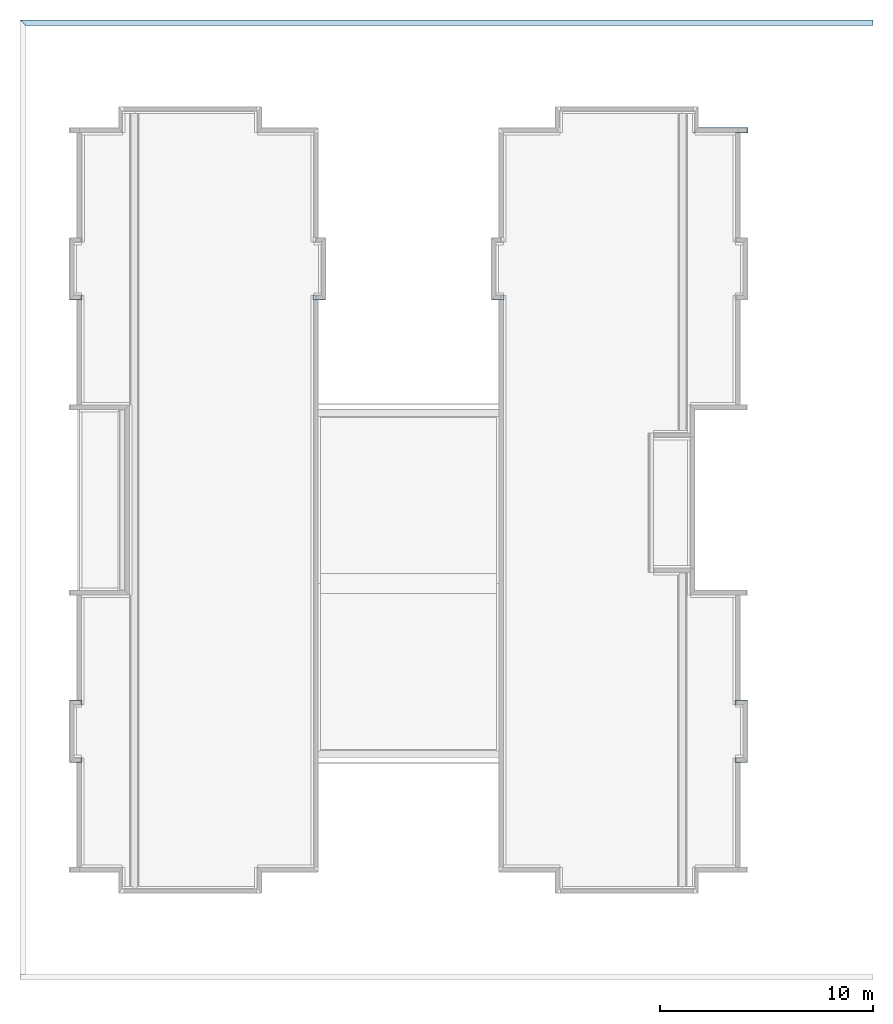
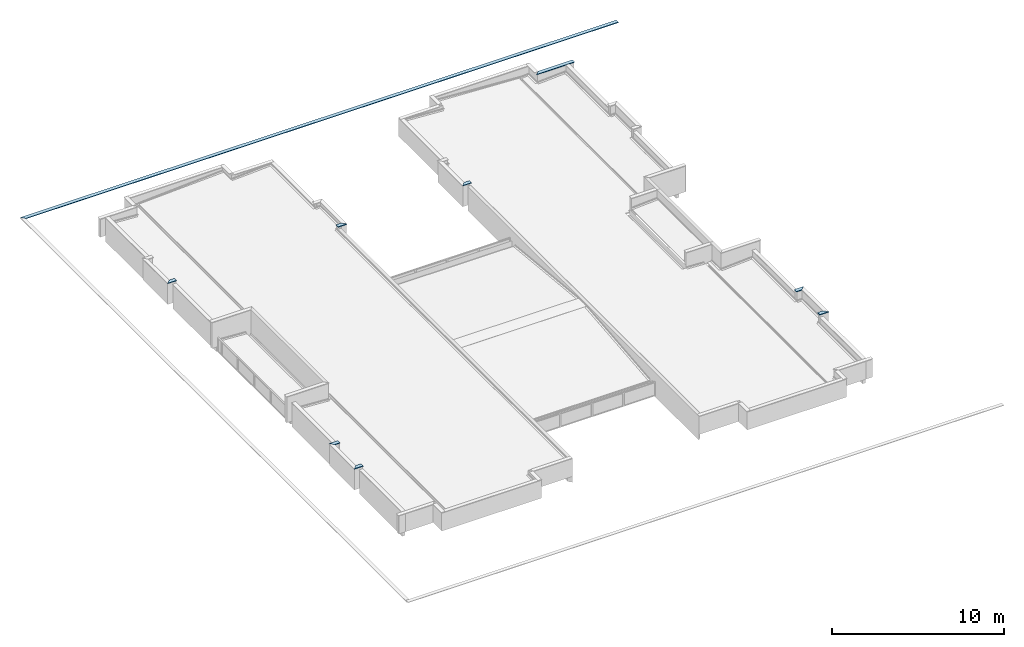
# One storey, part 22 of 25: 9 roofs.
"""IFC4 building model written with IfcOpenShell, lengths in metres."""

from ifc_helpers import new_model, entity, si_unit, converted_unit, derived_unit, direction, frame, origin_with_axes, place, context, subcontext, project, spatial, polygons, material, constituent, constituent_set, type_object, element, save


model = new_model("IFC4")

# Units and contexts
model_context = context("Model", 3, precision=1e-05, world=origin_with_axes(), true_north=direction((0.0, 1.0)))
body_context = subcontext(model_context, "Body", "Model", "MODEL_VIEW")
ifc_project = project(units=[si_unit("LENGTHUNIT", "METRE"), si_unit("AREAUNIT", "SQUARE_METRE"), si_unit("VOLUMEUNIT", "CUBIC_METRE"), converted_unit("PLANEANGLEUNIT", "DEGREE", entity("IfcPlaneAngleMeasure", 0.0174532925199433), si_unit("PLANEANGLEUNIT", "RADIAN"), dimensions=[0, 0, 0, 0, 0, 0, 0]), converted_unit("TIMEUNIT", "Year", entity("IfcTimeMeasure", 31557600.0), si_unit("TIMEUNIT", "SECOND"), dimensions=[0, 0, 1, 0, 0, 0, 0]), si_unit("MASSUNIT", "GRAM", prefix="KILO"), si_unit("THERMODYNAMICTEMPERATUREUNIT", "DEGREE_CELSIUS"), si_unit("LUMINOUSINTENSITYUNIT", "LUMEN"), si_unit("ENERGYUNIT", "JOULE", prefix="MEGA"), derived_unit("THERMALCONDUCTANCEUNIT", [(si_unit("POWERUNIT", "WATT"), 1), (si_unit("LENGTHUNIT", "METRE"), -1), (si_unit("THERMODYNAMICTEMPERATUREUNIT", "KELVIN"), -1)]), derived_unit("SPECIFICHEATCAPACITYUNIT", [(si_unit("ENERGYUNIT", "JOULE"), 1), (si_unit("MASSUNIT", "GRAM", prefix="KILO"), -1), (si_unit("THERMODYNAMICTEMPERATUREUNIT", "KELVIN"), -1)]), derived_unit("MASSDENSITYUNIT", [(si_unit("MASSUNIT", "GRAM", prefix="KILO"), 1), (si_unit("VOLUMEUNIT", "CUBIC_METRE"), -1)])], contexts=[model_context])

# Site, building, storey
site_placement = place(None, origin_with_axes())
site = spatial("IfcSite", under=ifc_project, at=site_placement, Name="PADRÃO", CompositionType="ELEMENT")
building_placement = place(site_placement, origin_with_axes())
building = spatial("IfcBuilding", under=site, at=building_placement, Name="CRECHE PRÉ-ESCOLA TIPO 2", CompositionType="ELEMENT")
storey_placement = place(building_placement, frame((0.0, 0.0, 3.26), z_axis=(0.0, 0.0, 1.0), x_axis=(1.0, 0.0, 0.0)))
storey = spatial("IfcBuildingStorey", under=building, at=storey_placement, Name="COBERTURA", CompositionType="ELEMENT", Elevation=3.26)

# Roofs
ifc_material = material(Name="PINGADEIRA EM CHAPA DE AÇO GALVANIZADO")
ifc_constituent_1 = constituent(ifc_material, Name="PINGADEIRA EM CHAPA DE AÇO GALVANIZADO 1")
ifc_constituent_2 = constituent(ifc_material, Name="PINGADEIRA EM CHAPA DE AÇO GALVANIZADO 2")
ifc_constituent_set_1 = constituent_set(constituents=[ifc_constituent_1, ifc_constituent_2])
roof_type_1 = type_object("IfcRoofType", Name="Várias Estruturas- 2 Segmentos - 250 x 40 x 2560 (1+2559)", PredefinedType="NOTDEFINED")
roof_1_placement = place(storey_placement, frame((-5.86556439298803, 39.9501559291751, 1.31), z_axis=(0.0, 0.0, 1.0), x_axis=(0.0, 1.0, 0.0)))
element("IfcRoof", 1, at=roof_1_placement, inside=storey, type_object=roof_type_1, material=ifc_constituent_set_1, Name="V01", PredefinedType="NOTDEFINED", context=body_context, shape_type="Tessellation", body=[
    polygons([(0.0250000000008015, 0.0, 0.00999999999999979), (0.0250000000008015, 0.000999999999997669, 0.00999999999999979), (-0.225037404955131, 0.000999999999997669, 0.00999999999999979), (-0.225037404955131, 0.0, 0.00999999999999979), (0.0250000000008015, 0.0, -0.0300000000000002), (0.0250000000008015, 0.000999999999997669, -0.0300000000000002), (-0.225037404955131, 0.000999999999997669, -0.0300000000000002), (-0.225037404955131, 0.0, -0.0300000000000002)], [[[1, 2, 3, 4]], [[5, 6, 2, 1]], [[3, 2, 6, 7]], [[4, 3, 7, 8]], [[5, 1, 4, 8]], [[8, 7, 6, 5]]], closed=True),
    polygons([(-0.204999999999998, 0.000999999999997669, -0.0184313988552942), (-0.225037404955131, 0.000999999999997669, -0.0300000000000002), (-0.225037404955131, 0.404451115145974, -0.0300000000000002), (-0.204999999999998, 0.40445132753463, -0.0184313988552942), (-0.205500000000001, 0.000999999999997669, -0.01756537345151), (-0.224036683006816, 0.000999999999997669, -0.0282675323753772), (-0.224021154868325, 0.000999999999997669, 0.00900000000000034), (0.0240000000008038, 0.000999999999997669, 0.00900000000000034), (0.0240000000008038, 0.000999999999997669, -0.0282679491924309), (0.00546259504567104, 0.000999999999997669, -0.01756537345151), (0.00496259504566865, 0.000999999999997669, -0.0184313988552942), (0.0250000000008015, 0.000999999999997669, -0.0300000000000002), (0.0250000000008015, 0.000999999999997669, 0.00999999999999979), (-0.225020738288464, 0.000999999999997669, 0.00999999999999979), (-0.225029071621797, 0.544451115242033, -0.00999999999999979), (-0.225024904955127, 0.544451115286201, 0.0), (-0.225024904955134, 0.404451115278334, 0.0), (-0.225020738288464, 2.560020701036, 0.00999999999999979), (-0.225037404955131, 2.56003736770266, -0.0300000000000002), (-0.225037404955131, 0.559423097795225, -0.0300000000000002), (-0.225029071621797, 0.559423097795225, -0.00999999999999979), (-0.224024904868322, 0.404451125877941, 0.0), (-0.224036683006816, 0.404451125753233, -0.0282675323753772), (-0.205500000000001, 0.404451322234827, -0.01756537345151), (-0.224024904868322, 0.544451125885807, 0.0), (-0.224029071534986, 0.544451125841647, -0.00999999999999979), (-0.224029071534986, 0.559423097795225, -0.00999999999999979), (-0.224036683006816, 0.559423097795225, -0.0282675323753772), (-0.224036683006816, 2.55903664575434, -0.0282675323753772), (-0.224021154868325, 2.55902111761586, 0.00900000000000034), (0.0240000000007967, 2.31099996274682, 0.00900000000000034), (0.0240000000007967, 2.31099996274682, -0.0282679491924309), (0.00546259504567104, 2.32953736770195, -0.01756537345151), (0.00496259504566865, 2.33003736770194, -0.0184313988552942), (0.0250000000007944, 2.30999996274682, -0.0300000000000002), (0.0250000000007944, 2.30999996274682, 0.00999999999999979), (-0.205500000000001, 2.54049996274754, -0.01756537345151), (-0.204999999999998, 2.53999996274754, -0.0184313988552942), (-0.204999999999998, 0.559423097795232, -0.0184313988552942), (-0.205500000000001, 0.559423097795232, -0.01756537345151)], [[[1, 2, 3, 4]], [[1, 5, 6, 7, 8, 9, 10, 11, 12, 13, 14, 2]], [[15, 16, 17, 3, 2, 14, 18, 19, 20, 21]], [[22, 23, 24, 4, 3, 17]], [[5, 1, 4, 24]], [[6, 5, 24, 23]], [[23, 22, 25, 26, 27, 28, 29, 30, 7, 6]], [[31, 8, 7, 30]], [[32, 9, 8, 31]], [[33, 10, 9, 32]], [[34, 11, 10, 33]], [[35, 12, 11, 34]], [[36, 13, 12, 35]], [[18, 14, 13, 36]], [[16, 15, 26, 25]], [[17, 16, 25, 22]], [[29, 37, 38, 19, 18, 36, 35, 34, 33, 32, 31, 30]], [[39, 20, 19, 38]], [[40, 28, 27, 21, 20, 39]], [[21, 27, 26, 15]], [[28, 40, 37, 29]], [[40, 39, 38, 37]]], closed=True),
])
ifc_constituent_3 = constituent(ifc_material, Name="PINGADEIRA EM CHAPA DE AÇO GALVANIZADO 1")
ifc_constituent_4 = constituent(ifc_material, Name="PINGADEIRA EM CHAPA DE AÇO GALVANIZADO 2")
ifc_constituent_set_2 = constituent_set(constituents=[ifc_constituent_3, ifc_constituent_4])
roof_type_2 = type_object("IfcRoofType", Name="Várias Estruturas- 2 Segmentos - 250 x 40 x 609 (1+608)", PredefinedType="NOTDEFINED")
roof_2_placement = place(storey_placement, frame((-6.47456699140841, 10.2001564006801, 1.51), z_axis=(0.0, 0.0, 1.0), x_axis=(4.85308304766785e-05, -0.999999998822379, 0.0)))
element("IfcRoof", 2, at=roof_2_placement, inside=storey, type_object=roof_type_2, material=ifc_constituent_set_2, Name="V01", PredefinedType="NOTDEFINED", context=body_context, shape_type="Tessellation", body=[
    polygons([(0.0250000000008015, 0.0, 0.00999999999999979), (0.0250000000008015, 0.00100000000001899, 0.00999999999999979), (-0.225037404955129, 0.00100000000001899, 0.00999999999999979), (-0.225037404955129, 0.0, 0.00999999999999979), (0.0250000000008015, 0.0, -0.0300000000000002), (0.0250000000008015, 0.00100000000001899, -0.0300000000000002), (-0.225037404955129, 0.00100000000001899, -0.0300000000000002), (-0.225037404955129, 0.0, -0.0300000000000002)], [[[1, 2, 3, 4]], [[5, 6, 2, 1]], [[3, 2, 6, 7]], [[4, 3, 7, 8]], [[5, 1, 4, 8]], [[8, 7, 6, 5]]], closed=True),
    polygons([(0.00496259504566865, 0.000999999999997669, -0.0184313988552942), (0.00496259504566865, 0.589101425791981, -0.0184313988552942), (0.0250000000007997, 0.609138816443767, -0.0300000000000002), (0.0250000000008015, 0.00100000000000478, -0.0300000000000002), (0.00546259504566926, 0.00100000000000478, -0.01756537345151), (0.00546259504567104, 0.589601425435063, -0.01756537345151), (-0.205000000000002, 0.379138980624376, -0.0184313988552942), (-0.225037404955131, 0.359101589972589, -0.0300000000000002), (-0.225020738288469, 0.359118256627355, 0.00999999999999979), (0.0250000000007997, 0.609138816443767, 0.00999999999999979), (0.0240000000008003, 0.608138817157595, -0.0282679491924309), (0.0240000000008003, 0.608138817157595, 0.00900000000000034), (-0.224021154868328, 0.360117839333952, 0.00900000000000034), (-0.224036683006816, 0.360102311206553, -0.0282675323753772), (-0.205500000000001, 0.378638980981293, -0.01756537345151), (0.0250000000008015, 0.00100000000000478, 0.00999999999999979), (-0.224036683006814, 0.00100000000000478, -0.0282675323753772), (-0.224021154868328, 0.00100000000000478, 0.00900000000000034), (0.0240000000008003, 0.00100000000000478, 0.00900000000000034), (0.0240000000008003, 0.00100000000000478, -0.0282679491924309), (-0.225020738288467, 0.00100000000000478, 0.00999999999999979), (-0.225037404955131, 0.00100000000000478, -0.0300000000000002), (-0.205000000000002, 0.00100000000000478, -0.0184313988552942), (-0.205499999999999, 0.00100000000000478, -0.01756537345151)], [[[1, 2, 3, 4]], [[5, 6, 2, 1]], [[7, 8, 9, 10, 3, 2, 6, 11, 12, 13, 14, 15]], [[4, 3, 10, 16]], [[17, 18, 19, 20, 5, 1, 4, 16, 21, 22, 23, 24]], [[20, 11, 6, 5]], [[22, 8, 7, 23]], [[21, 9, 8, 22]], [[16, 10, 9, 21]], [[19, 12, 11, 20]], [[18, 13, 12, 19]], [[17, 14, 13, 18]], [[24, 15, 14, 17]], [[23, 7, 15, 24]]], closed=True),
])
ifc_constituent_5 = constituent(ifc_material, Name="PINGADEIRA EM CHAPA DE AÇO GALVANIZADO 1")
ifc_constituent_6 = constituent(ifc_material, Name="PINGADEIRA EM CHAPA DE AÇO GALVANIZADO 2")
ifc_constituent_set_3 = constituent_set(constituents=[ifc_constituent_5, ifc_constituent_6])
roof_3_placement = place(storey_placement, frame((-37.106068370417, 13.1000019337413, 1.51), z_axis=(0.0, 0.0, 1.0), x_axis=(0.0, 1.0, 0.0)))
element("IfcRoof", 3, at=roof_3_placement, inside=storey, type_object=roof_type_2, material=ifc_constituent_set_3, Name="V01", PredefinedType="NOTDEFINED", context=body_context, shape_type="Tessellation", body=[
    polygons([(0.0250000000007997, 0.0, 0.00999999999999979), (0.0250000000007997, 0.00099999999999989, 0.00999999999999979), (-0.225037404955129, 0.00099999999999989, 0.00999999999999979), (-0.225037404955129, 0.0, 0.00999999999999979), (0.0250000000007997, 0.0, -0.0300000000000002), (0.0250000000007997, 0.00099999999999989, -0.0300000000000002), (-0.225037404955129, 0.00099999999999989, -0.0300000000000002), (-0.225037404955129, 0.0, -0.0300000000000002)], [[[1, 2, 3, 4]], [[5, 6, 2, 1]], [[3, 2, 6, 7]], [[4, 3, 7, 8]], [[5, 1, 4, 8]], [[8, 7, 6, 5]]], closed=True),
    polygons([(0.00496259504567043, 0.00099999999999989, -0.0184313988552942), (0.00496259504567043, 0.588965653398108, -0.0184313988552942), (0.0250000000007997, 0.609003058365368, -0.0300000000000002), (0.0250000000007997, 0.00099999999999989, -0.0300000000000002), (0.00546259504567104, 0.00099999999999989, -0.01756537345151), (0.00546259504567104, 0.589465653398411, -0.01756537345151), (-0.205, 0.379003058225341, -0.0184313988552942), (-0.225037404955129, 0.358965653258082, -0.0300000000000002), (-0.225020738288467, 0.358982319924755, 0.00999999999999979), (0.0250000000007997, 0.609003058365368, 0.00999999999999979), (0.0240000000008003, 0.608003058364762, -0.0282679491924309), (0.0240000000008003, 0.608003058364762, 0.00900000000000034), (-0.224021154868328, 0.359981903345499, 0.00900000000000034), (-0.224036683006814, 0.359966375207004, -0.0282675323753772), (-0.205500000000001, 0.378503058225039, -0.01756537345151), (0.0250000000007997, 0.00099999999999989, 0.00999999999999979), (-0.224036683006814, 0.00099999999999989, -0.0282675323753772), (-0.224021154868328, 0.00099999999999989, 0.00900000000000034), (0.0240000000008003, 0.00099999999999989, 0.00900000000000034), (0.0240000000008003, 0.00099999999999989, -0.0282679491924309), (-0.225020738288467, 0.00099999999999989, 0.00999999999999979), (-0.225037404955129, 0.00099999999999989, -0.0300000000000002), (-0.205, 0.00099999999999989, -0.0184313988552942), (-0.205500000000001, 0.00099999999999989, -0.01756537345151)], [[[1, 2, 3, 4]], [[5, 6, 2, 1]], [[7, 8, 9, 10, 3, 2, 6, 11, 12, 13, 14, 15]], [[4, 3, 10, 16]], [[17, 18, 19, 20, 5, 1, 4, 16, 21, 22, 23, 24]], [[20, 11, 6, 5]], [[22, 8, 7, 23]], [[21, 9, 8, 22]], [[16, 10, 9, 21]], [[19, 12, 11, 20]], [[18, 13, 12, 19]], [[17, 14, 13, 18]], [[24, 15, 14, 17]], [[23, 7, 15, 24]]], closed=True),
])
ifc_constituent_7 = constituent(ifc_material, Name="PINGADEIRA EM CHAPA DE AÇO GALVANIZADO 1")
ifc_constituent_8 = constituent(ifc_material, Name="PINGADEIRA EM CHAPA DE AÇO GALVANIZADO 2")
ifc_constituent_set_4 = constituent_set(constituents=[ifc_constituent_7, ifc_constituent_8])
roof_type_3 = type_object("IfcRoofType", Name="Várias Estruturas- 2 Segmentos - 250 x 40 x 609 (608+1)", PredefinedType="NOTDEFINED")
roof_4_placement = place(storey_placement, frame((-5.89056682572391, 13.1001559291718, 1.51), z_axis=(0.0, 0.0, 1.0), x_axis=(0.0, 1.0, 0.0)))
element("IfcRoof", 4, at=roof_4_placement, inside=storey, type_object=roof_type_3, material=ifc_constituent_set_4, Name="V01", PredefinedType="NOTDEFINED", context=body_context, shape_type="Tessellation", body=[
    polygons([(0.00496259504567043, -0.00496235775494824, -0.0184313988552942), (0.00496259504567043, 0.582999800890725, -0.0184313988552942), (0.0250000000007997, 0.582999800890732, -0.0300000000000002), (0.0250000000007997, -0.0249988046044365, -0.0300000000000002), (0.00546259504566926, -0.00546233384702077, -0.01756537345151), (0.00546259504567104, 0.582999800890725, -0.01756537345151), (-0.205, 0.582999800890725, -0.0184313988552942), (-0.225037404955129, 0.582999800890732, -0.0300000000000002), (-0.225020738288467, 0.582999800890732, 0.00999999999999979), (0.0250000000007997, 0.582999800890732, 0.00999999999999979), (0.0240000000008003, 0.582999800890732, -0.0282679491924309), (0.0240000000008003, 0.582999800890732, 0.00900000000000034), (-0.224021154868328, 0.582999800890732, 0.00900000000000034), (-0.224036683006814, 0.582999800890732, -0.0282675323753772), (-0.205500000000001, 0.582999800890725, -0.01756537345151), (0.0250000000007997, -0.0249988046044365, 0.00999999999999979), (-0.224036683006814, 0.224025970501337, -0.0282675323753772), (-0.224021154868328, 0.224010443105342, 0.00900000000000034), (0.0240000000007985, -0.0239988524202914, 0.00900000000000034), (0.0240000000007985, -0.0239988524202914, -0.0282679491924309), (-0.225020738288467, 0.225009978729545, 0.00999999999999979), (-0.225037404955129, 0.225026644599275, -0.0300000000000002), (-0.205, 0.204990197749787, -0.0184313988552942), (-0.205500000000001, 0.205490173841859, -0.01756537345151)], [[[1, 2, 3, 4]], [[5, 6, 2, 1]], [[7, 8, 9, 10, 3, 2, 6, 11, 12, 13, 14, 15]], [[4, 3, 10, 16]], [[17, 18, 19, 20, 5, 1, 4, 16, 21, 22, 23, 24]], [[20, 11, 6, 5]], [[22, 8, 7, 23]], [[21, 9, 8, 22]], [[16, 10, 9, 21]], [[19, 12, 11, 20]], [[18, 13, 12, 19]], [[17, 14, 13, 18]], [[24, 15, 14, 17]], [[23, 7, 15, 24]]], closed=True),
    polygons([(0.0250000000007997, 0.582999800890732, 0.00999999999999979), (0.0250000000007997, 0.58399980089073, 0.00999999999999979), (-0.225037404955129, 0.58399980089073, 0.00999999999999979), (-0.225037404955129, 0.582999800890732, 0.00999999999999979), (0.0250000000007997, 0.582999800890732, -0.0300000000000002), (0.0250000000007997, 0.58399980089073, -0.0300000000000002), (-0.225037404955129, 0.58399980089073, -0.0300000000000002), (-0.225037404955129, 0.582999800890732, -0.0300000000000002)], [[[1, 2, 3, 4]], [[5, 6, 2, 1]], [[3, 2, 6, 7]], [[4, 3, 7, 8]], [[5, 1, 4, 8]], [[8, 7, 6, 5]]], closed=True),
])
ifc_constituent_9 = constituent(ifc_material, Name="PINGADEIRA EM CHAPA DE AÇO GALVANIZADO 1")
ifc_constituent_10 = constituent(ifc_material, Name="PINGADEIRA EM CHAPA DE AÇO GALVANIZADO 2")
ifc_constituent_set_5 = constituent_set(constituents=[ifc_constituent_9, ifc_constituent_10])
roof_5_placement = place(storey_placement, frame((-37.690071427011, 10.2000019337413, 1.51), z_axis=(0.0, 0.0, 1.0), x_axis=(0.0, -1.0, 0.0)))
element("IfcRoof", 5, at=roof_5_placement, inside=storey, type_object=roof_type_3, material=ifc_constituent_set_5, Name="V01", PredefinedType="NOTDEFINED", context=body_context, shape_type="Tessellation", body=[
    polygons([(0.00496259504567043, -0.00496259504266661, -0.0184313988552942), (0.00496259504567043, 0.582970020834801, -0.0184313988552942), (0.0250000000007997, 0.582970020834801, -0.0300000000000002), (0.0250000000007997, -0.0249999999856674, -0.0300000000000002), (0.00546259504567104, -0.0054625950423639, -0.01756537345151), (0.00546259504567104, 0.582970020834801, -0.01756537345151), (-0.205, 0.582970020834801, -0.0184313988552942), (-0.225037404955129, 0.582970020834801, -0.0300000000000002), (-0.225020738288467, 0.582970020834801, 0.00999999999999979), (0.0250000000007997, 0.582970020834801, 0.00999999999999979), (0.0240000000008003, 0.582970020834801, -0.0282679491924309), (0.0240000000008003, 0.582970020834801, 0.00900000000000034), (-0.224021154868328, 0.582970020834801, 0.00900000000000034), (-0.224036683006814, 0.582970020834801, -0.0282675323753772), (-0.205500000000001, 0.582970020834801, -0.01756537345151), (0.0250000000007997, -0.0249999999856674, 0.00999999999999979), (-0.224036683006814, 0.2240366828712, -0.0282675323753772), (-0.224021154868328, 0.224021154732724, 0.00900000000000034), (0.0240000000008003, -0.0239999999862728, 0.00900000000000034), (0.0240000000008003, -0.0239999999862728, -0.0282679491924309), (-0.225020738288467, 0.225020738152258, 0.00999999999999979), (-0.225037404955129, 0.225037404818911, -0.0300000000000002), (-0.205, 0.20499999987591, -0.0184313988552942), (-0.205500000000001, 0.205499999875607, -0.01756537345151)], [[[1, 2, 3, 4]], [[5, 6, 2, 1]], [[7, 8, 9, 10, 3, 2, 6, 11, 12, 13, 14, 15]], [[4, 3, 10, 16]], [[17, 18, 19, 20, 5, 1, 4, 16, 21, 22, 23, 24]], [[20, 11, 6, 5]], [[22, 8, 7, 23]], [[21, 9, 8, 22]], [[16, 10, 9, 21]], [[19, 12, 11, 20]], [[18, 13, 12, 19]], [[17, 14, 13, 18]], [[24, 15, 14, 17]], [[23, 7, 15, 24]]], closed=True),
    polygons([(0.0250000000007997, 0.582970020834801, 0.00999999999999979), (0.0250000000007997, 0.5839700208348, 0.00999999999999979), (-0.225037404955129, 0.5839700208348, 0.00999999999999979), (-0.225037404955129, 0.582970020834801, 0.00999999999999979), (0.0250000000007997, 0.582970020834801, -0.0300000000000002), (0.0250000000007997, 0.5839700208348, -0.0300000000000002), (-0.225037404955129, 0.5839700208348, -0.0300000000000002), (-0.225037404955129, 0.582970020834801, -0.0300000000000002)], [[[1, 2, 3, 4]], [[5, 6, 2, 1]], [[3, 2, 6, 7]], [[4, 3, 7, 8]], [[5, 1, 4, 8]], [[8, 7, 6, 5]]], closed=True),
])
ifc_constituent_11 = constituent(ifc_material, Name="PINGADEIRA EM CHAPA DE AÇO GALVANIZADO 1")
ifc_constituent_12 = constituent(ifc_material, Name="PINGADEIRA EM CHAPA DE AÇO GALVANIZADO 2")
ifc_constituent_set_6 = constituent_set(constituents=[ifc_constituent_11, ifc_constituent_12])
roof_6_placement = place(storey_placement, frame((-37.6900714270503, 31.9000019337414, 1.51), z_axis=(0.0, 0.0, 1.0), x_axis=(0.0, -1.0, 0.0)))
element("IfcRoof", 6, at=roof_6_placement, inside=storey, type_object=roof_type_3, material=ifc_constituent_set_6, Name="V01", PredefinedType="NOTDEFINED", context=body_context, shape_type="Tessellation", body=[
    polygons([(0.0049625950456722, -0.00496259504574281, -0.0184313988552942), (0.0049625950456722, 0.582970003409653, -0.0184313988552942), (0.0250000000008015, 0.582970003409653, -0.0300000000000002), (0.0250000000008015, -0.0250000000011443, -0.0300000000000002), (0.00546259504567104, -0.00546259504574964, -0.01756537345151), (0.00546259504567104, 0.582970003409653, -0.01756537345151), (-0.204999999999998, 0.582970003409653, -0.0184313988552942), (-0.225037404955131, 0.582970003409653, -0.0300000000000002), (-0.225020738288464, 0.582970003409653, 0.00999999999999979), (0.0250000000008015, 0.582970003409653, 0.00999999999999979), (0.0240000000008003, 0.582970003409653, -0.0282679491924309), (0.0240000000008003, 0.582970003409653, 0.00900000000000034), (-0.224021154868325, 0.582970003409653, 0.00900000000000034), (-0.224036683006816, 0.582970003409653, -0.0282675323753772), (-0.205500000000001, 0.582970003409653, -0.01756537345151), (0.0250000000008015, -0.0250000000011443, 0.00999999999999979), (-0.224036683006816, 0.224036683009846, -0.0282675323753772), (-0.224021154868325, 0.22402115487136, 0.00900000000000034), (0.0240000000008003, -0.0240000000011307, 0.00900000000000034), (0.0240000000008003, -0.0240000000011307, -0.0282679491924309), (-0.225020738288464, 0.225020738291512, 0.00999999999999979), (-0.225037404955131, 0.225037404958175, -0.0300000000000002), (-0.204999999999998, 0.205000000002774, -0.0184313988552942), (-0.205500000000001, 0.205500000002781, -0.01756537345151)], [[[1, 2, 3, 4]], [[5, 6, 2, 1]], [[7, 8, 9, 10, 3, 2, 6, 11, 12, 13, 14, 15]], [[4, 3, 10, 16]], [[17, 18, 19, 20, 5, 1, 4, 16, 21, 22, 23, 24]], [[20, 11, 6, 5]], [[22, 8, 7, 23]], [[21, 9, 8, 22]], [[16, 10, 9, 21]], [[19, 12, 11, 20]], [[18, 13, 12, 19]], [[17, 14, 13, 18]], [[24, 15, 14, 17]], [[23, 7, 15, 24]]], closed=True),
    polygons([(0.0250000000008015, 0.582970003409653, 0.00999999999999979), (0.0250000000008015, 0.583970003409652, 0.00999999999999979), (-0.225037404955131, 0.583970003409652, 0.00999999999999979), (-0.225037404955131, 0.582970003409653, 0.00999999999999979), (0.0250000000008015, 0.582970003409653, -0.0300000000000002), (0.0250000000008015, 0.583970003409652, -0.0300000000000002), (-0.225037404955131, 0.583970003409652, -0.0300000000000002), (-0.225037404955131, 0.582970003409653, -0.0300000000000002)], [[[1, 2, 3, 4]], [[5, 6, 2, 1]], [[3, 2, 6, 7]], [[4, 3, 7, 8]], [[5, 1, 4, 8]], [[8, 7, 6, 5]]], closed=True),
])
ifc_constituent_13 = constituent(ifc_material, Name="PINGADEIRA EM CHAPA DE AÇO GALVANIZADO 1")
ifc_constituent_14 = constituent(ifc_material, Name="PINGADEIRA EM CHAPA DE AÇO GALVANIZADO 2")
ifc_constituent_set_7 = constituent_set(constituents=[ifc_constituent_13, ifc_constituent_14])
roof_7_placement = place(storey_placement, frame((-17.890012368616, 31.9000019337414, 1.51), z_axis=(0.0, 0.0, 1.0), x_axis=(0.0, -1.0, 0.0)))
element("IfcRoof", 7, at=roof_7_placement, inside=storey, type_object=roof_type_3, material=ifc_constituent_set_7, Name="V01", PredefinedType="NOTDEFINED", context=body_context, shape_type="Tessellation", body=[
    polygons([(0.0049625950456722, -0.00496259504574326, -0.0184313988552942), (0.0049625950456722, 0.582970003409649, -0.0184313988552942), (0.0250000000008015, 0.582970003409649, -0.0300000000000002), (0.0250000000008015, -0.0250000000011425, -0.0300000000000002), (0.00546259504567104, -0.0054625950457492, -0.01756537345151), (0.00546259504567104, 0.582970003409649, -0.01756537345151), (-0.204999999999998, 0.582970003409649, -0.0184313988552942), (-0.225037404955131, 0.582970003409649, -0.0300000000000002), (-0.225020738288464, 0.582970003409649, 0.00999999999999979), (0.0250000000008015, 0.582970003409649, 0.00999999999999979), (0.0240000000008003, 0.582970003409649, -0.0282679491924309), (0.0240000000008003, 0.582970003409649, 0.00900000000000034), (-0.224021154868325, 0.582970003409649, 0.00900000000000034), (-0.224036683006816, 0.582970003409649, -0.0282675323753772), (-0.205500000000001, 0.582970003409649, -0.01756537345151), (0.0250000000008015, -0.0250000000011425, 0.00999999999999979), (-0.224036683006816, 0.224036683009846, -0.0282675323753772), (-0.224021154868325, 0.224021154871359, 0.00900000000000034), (0.0240000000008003, -0.0240000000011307, 0.00900000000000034), (0.0240000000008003, -0.0240000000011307, -0.0282679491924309), (-0.225020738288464, 0.225020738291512, 0.00999999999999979), (-0.225037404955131, 0.225037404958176, -0.0300000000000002), (-0.204999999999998, 0.205000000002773, -0.0184313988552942), (-0.205500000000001, 0.205500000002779, -0.01756537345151)], [[[1, 2, 3, 4]], [[5, 6, 2, 1]], [[7, 8, 9, 10, 3, 2, 6, 11, 12, 13, 14, 15]], [[4, 3, 10, 16]], [[17, 18, 19, 20, 5, 1, 4, 16, 21, 22, 23, 24]], [[20, 11, 6, 5]], [[22, 8, 7, 23]], [[21, 9, 8, 22]], [[16, 10, 9, 21]], [[19, 12, 11, 20]], [[18, 13, 12, 19]], [[17, 14, 13, 18]], [[24, 15, 14, 17]], [[23, 7, 15, 24]]], closed=True),
    polygons([(0.0250000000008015, 0.582970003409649, 0.00999999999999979), (0.0250000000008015, 0.58397000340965, 0.00999999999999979), (-0.225037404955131, 0.58397000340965, 0.00999999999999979), (-0.225037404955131, 0.582970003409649, 0.00999999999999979), (0.0250000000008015, 0.582970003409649, -0.0300000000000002), (0.0250000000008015, 0.58397000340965, -0.0300000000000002), (-0.225037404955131, 0.58397000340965, -0.0300000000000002), (-0.225037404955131, 0.582970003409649, -0.0300000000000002)], [[[1, 2, 3, 4]], [[5, 6, 2, 1]], [[3, 2, 6, 7]], [[4, 3, 7, 8]], [[5, 1, 4, 8]], [[8, 7, 6, 5]]], closed=True),
])
ifc_constituent_15 = constituent(ifc_material, Name="PINGADEIRA EM CHAPA DE AÇO GALVANIZADO 1")
ifc_constituent_16 = constituent(ifc_material, Name="PINGADEIRA EM CHAPA DE AÇO GALVANIZADO 2")
ifc_constituent_set_8 = constituent_set(constituents=[ifc_constituent_15, ifc_constituent_16])
roof_8_placement = place(storey_placement, frame((-25.6895277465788, 31.9000019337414, 1.51), z_axis=(0.0, 0.0, 1.0), x_axis=(0.0, 1.0, 0.0)))
element("IfcRoof", 8, at=roof_8_placement, inside=storey, type_object=roof_type_3, material=ifc_constituent_set_8, Name="V01", PredefinedType="NOTDEFINED", context=body_context, shape_type="Tessellation", body=[
    polygons([(-0.00546259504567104, -0.00546259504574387, -0.01756537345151), (-0.00546259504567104, 0.582970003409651, -0.01756537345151), (-0.0240000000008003, 0.582970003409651, -0.0282679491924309), (-0.0240000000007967, -0.0240000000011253, -0.0282679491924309), (-0.00496259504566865, -0.00496259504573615, -0.0184313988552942), (-0.00496259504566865, 0.582970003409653, -0.0184313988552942), (0.205500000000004, 0.582970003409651, -0.01756537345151), (0.224036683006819, 0.582970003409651, -0.0282675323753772), (0.224021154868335, 0.582970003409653, 0.00900000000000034), (-0.0240000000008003, 0.582970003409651, 0.00900000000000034), (-0.0250000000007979, 0.582970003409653, -0.0300000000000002), (-0.0250000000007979, 0.582970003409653, 0.00999999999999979), (0.225020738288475, 0.582970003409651, 0.00999999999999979), (0.225037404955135, 0.582970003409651, -0.0300000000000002), (0.205000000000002, 0.582970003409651, -0.0184313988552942), (-0.0240000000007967, -0.0240000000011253, 0.00900000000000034), (0.225037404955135, 0.225037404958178, -0.0300000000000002), (0.225020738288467, 0.225020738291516, 0.00999999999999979), (-0.0250000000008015, -0.0250000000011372, 0.00999999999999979), (-0.0250000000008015, -0.0250000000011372, -0.0300000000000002), (0.224021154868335, 0.224021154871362, 0.00900000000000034), (0.224036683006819, 0.224036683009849, -0.0282675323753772), (0.205499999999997, 0.205500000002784, -0.01756537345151), (0.205000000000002, 0.205000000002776, -0.0184313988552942)], [[[1, 2, 3, 4]], [[5, 6, 2, 1]], [[7, 8, 9, 10, 3, 2, 6, 11, 12, 13, 14, 15]], [[4, 3, 10, 16]], [[17, 18, 19, 20, 5, 1, 4, 16, 21, 22, 23, 24]], [[20, 11, 6, 5]], [[22, 8, 7, 23]], [[21, 9, 8, 22]], [[16, 10, 9, 21]], [[19, 12, 11, 20]], [[18, 13, 12, 19]], [[17, 14, 13, 18]], [[24, 15, 14, 17]], [[23, 7, 15, 24]]], closed=True),
    polygons([(-0.0250000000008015, 0.582970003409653, -0.0300000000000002), (-0.0250000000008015, 0.583970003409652, -0.0300000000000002), (0.225037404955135, 0.58397000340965, -0.0300000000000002), (0.225037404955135, 0.582970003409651, -0.0300000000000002), (-0.0250000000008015, 0.582970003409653, 0.00999999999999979), (-0.0250000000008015, 0.583970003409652, 0.00999999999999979), (0.225037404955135, 0.58397000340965, 0.00999999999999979), (0.225037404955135, 0.582970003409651, 0.00999999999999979)], [[[1, 2, 3, 4]], [[5, 6, 2, 1]], [[3, 2, 6, 7]], [[4, 3, 7, 8]], [[5, 1, 4, 8]], [[8, 7, 6, 5]]], closed=True),
])
ifc_constituent_17 = constituent(ifc_material, Name="PINGADEIRA EM CHAPA DE AÇO GALVANIZADO 1")
ifc_constituent_18 = constituent(ifc_material, Name="PINGADEIRA EM CHAPA DE AÇO GALVANIZADO 2")
ifc_constituent_set_9 = constituent_set(constituents=[ifc_constituent_17, ifc_constituent_18])
roof_type_4 = type_object("IfcRoofType", Name="Várias Estruturas- 2 Segmentos - 250 x 40 x 40025 (1+40024)", PredefinedType="NOTDEFINED")
roof_9_placement = place(storey_placement, frame((-1.25092168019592e-05, 45.0, -0.98), z_axis=(0.0, 0.0, 1.0), x_axis=(0.0, 1.0, 0.0)))
element("IfcRoof", 9, at=roof_9_placement, inside=storey, type_object=roof_type_4, material=ifc_constituent_set_9, Name="V01", PredefinedType="NOTDEFINED", context=body_context, shape_type="Tessellation", body=[
    polygons([(-0.225037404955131, 0.0, -0.0299999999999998), (-0.164999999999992, 0.0, -0.0299999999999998), (-0.164999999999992, 0.0, 0.0), (-0.0249999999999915, 0.0, 0.0), (-0.0249999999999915, 0.0, -0.0299999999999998), (0.0250000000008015, 0.0, -0.0299999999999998), (0.0250000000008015, 0.0, 0.00999999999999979), (-0.225037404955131, 0.0, 0.00999999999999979), (-0.225037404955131, 0.000999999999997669, -0.0299999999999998), (-0.164999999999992, 0.000999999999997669, -0.0299999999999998), (-0.164999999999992, 0.000999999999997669, 0.0), (-0.0249999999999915, 0.000999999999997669, 0.0), (-0.0249999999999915, 0.000999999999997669, -0.0299999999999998), (0.0250000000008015, 0.000999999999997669, -0.0299999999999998), (0.0250000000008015, 0.000999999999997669, 0.00999999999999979), (-0.225037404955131, 0.000999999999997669, 0.00999999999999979)], [[[1, 2, 3, 4, 5, 6, 7, 8]], [[9, 10, 2, 1]], [[11, 3, 2, 10]], [[12, 4, 3, 11]], [[13, 5, 4, 12]], [[6, 5, 13, 14]], [[7, 6, 14, 15]], [[8, 7, 15, 16]], [[1, 8, 16, 9]], [[12, 11, 10, 9, 16, 15, 14, 13]]], closed=True),
    polygons([(0.00496259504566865, 0.000999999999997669, -0.0184313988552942), (0.00496259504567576, 40.0049500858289, -0.0184313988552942), (0.0250000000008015, 40.024987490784, -0.0299999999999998), (0.0250000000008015, 0.000999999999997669, -0.0299999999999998), (0.00546259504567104, 0.000999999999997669, -0.01756537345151), (0.00546259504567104, 40.0054500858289, -0.01756537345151), (-0.204999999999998, 39.7949874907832, -0.0184313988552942), (-0.225037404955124, 39.7749500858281, -0.0299999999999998), (-0.225020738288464, 39.7749667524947, 0.00999999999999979), (0.0250000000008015, 40.024987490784, 0.00999999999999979), (0.0240000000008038, 40.023987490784, -0.0282679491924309), (0.0240000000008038, 40.023987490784, 0.0089999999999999), (-0.224021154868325, 39.7759663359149, 0.0089999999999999), (-0.224036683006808, 39.7759508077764, -0.0282675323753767), (-0.205500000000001, 39.7944874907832, -0.01756537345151), (0.0250000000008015, 0.000999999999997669, 0.00999999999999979), (-0.224036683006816, 0.000999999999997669, -0.0282675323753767), (-0.224021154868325, 0.000999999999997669, 0.0089999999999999), (0.0240000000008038, 0.000999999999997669, 0.0089999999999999), (0.0240000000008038, 0.000999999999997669, -0.0282679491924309), (-0.225020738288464, 0.000999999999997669, 0.00999999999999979), (-0.225037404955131, 0.000999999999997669, -0.0299999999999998), (-0.204999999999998, 0.000999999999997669, -0.0184313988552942), (-0.205500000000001, 0.000999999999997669, -0.01756537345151)], [[[1, 2, 3, 4]], [[5, 6, 2, 1]], [[7, 8, 9, 10, 3, 2, 6, 11, 12, 13, 14, 15]], [[4, 3, 10, 16]], [[17, 18, 19, 20, 5, 1, 4, 16, 21, 22, 23, 24]], [[20, 11, 6, 5]], [[22, 8, 7, 23]], [[21, 9, 8, 22]], [[16, 10, 9, 21]], [[19, 12, 11, 20]], [[18, 13, 12, 19]], [[17, 14, 13, 18]], [[24, 15, 14, 17]], [[23, 7, 15, 24]]], closed=True),
])

save(model, "model.ifc")
